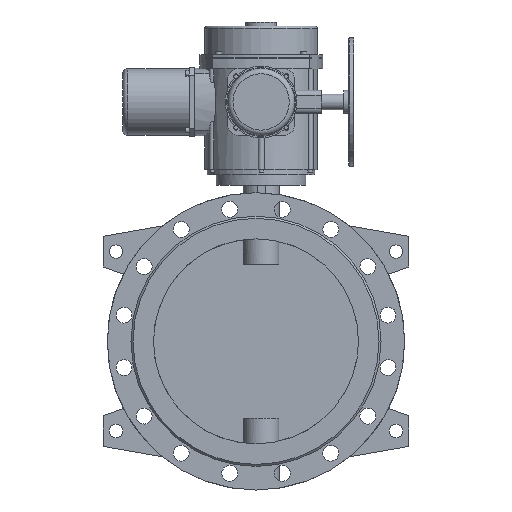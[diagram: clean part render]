
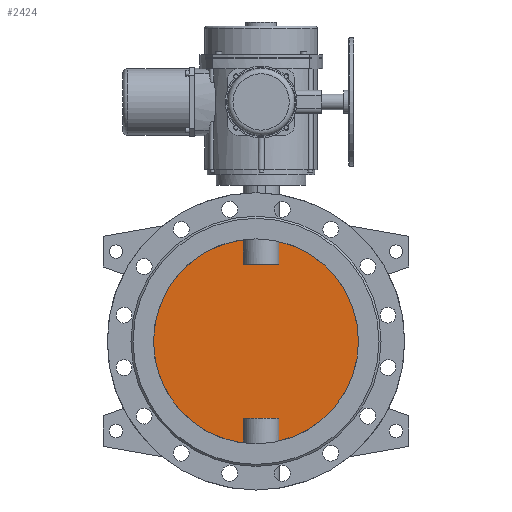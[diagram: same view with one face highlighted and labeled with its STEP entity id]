
A CAD part, front view. The second image highlights one B-rep face of the part: STEP entity #2424.
In plain terms, the highlighted planar face has unit normal (0, -1, 0).
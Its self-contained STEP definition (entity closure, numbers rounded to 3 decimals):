
#2424=ADVANCED_FACE('',(#5829),#5831,.F.);
#5829=FACE_BOUND('',#5830,.T.);
#5830=EDGE_LOOP('',(#8015,#8016,#8017,#8018,#8019,#8020,#8021,#8022));
#5831=PLANE('',#5832);
#5832=AXIS2_PLACEMENT_3D('',#5833,#5834,#5835);
#5833=CARTESIAN_POINT('',(0.,-5.,0.));
#5834=DIRECTION('',(0.,1.,0.));
#5835=DIRECTION('',(1.,0.,0.));
#8015=ORIENTED_EDGE('',*,*,#9122,.T.);
#8016=ORIENTED_EDGE('',*,*,#9145,.T.);
#8017=ORIENTED_EDGE('',*,*,#9146,.T.);
#8018=ORIENTED_EDGE('',*,*,#9147,.T.);
#8019=ORIENTED_EDGE('',*,*,#9124,.T.);
#8020=ORIENTED_EDGE('',*,*,#9148,.T.);
#8021=ORIENTED_EDGE('',*,*,#9149,.T.);
#8022=ORIENTED_EDGE('',*,*,#9150,.T.);
#9122=EDGE_CURVE('',#10428,#10429,#10430,.F.);
#9124=EDGE_CURVE('',#10433,#10431,#10434,.F.);
#9145=EDGE_CURVE('',#10429,#10474,#10475,.T.);
#9146=EDGE_CURVE('',#10474,#10476,#10477,.F.);
#9147=EDGE_CURVE('',#10476,#10433,#10478,.F.);
#9148=EDGE_CURVE('',#10431,#10479,#10480,.F.);
#9149=EDGE_CURVE('',#10479,#10481,#10482,.F.);
#9150=EDGE_CURVE('',#10481,#10428,#10483,.T.);
#10428=VERTEX_POINT('',#15258);
#10429=VERTEX_POINT('',#15259);
#10430=CIRCLE('',#15260,200.);
#10431=VERTEX_POINT('',#15264);
#10433=VERTEX_POINT('',#15327);
#10434=CIRCLE('',#15328,200.);
#10474=VERTEX_POINT('',#15540);
#10475=LINE('',#15541,#15542);
#10476=VERTEX_POINT('',#15544);
#10477=LINE('',#15545,#15546);
#10478=LINE('',#15548,#15549);
#10479=VERTEX_POINT('',#15551);
#10480=LINE('',#15552,#15553);
#10481=VERTEX_POINT('',#15555);
#10482=LINE('',#15556,#15557);
#10483=LINE('',#15559,#15560);
#15258=CARTESIAN_POINT('',(44.641,-5.,-194.954));
#15259=CARTESIAN_POINT('',(44.641,-5.,194.954));
#15260=AXIS2_PLACEMENT_3D('',#15261,#15262,#15263);
#15261=CARTESIAN_POINT('',(0.,-5.,0.));
#15262=DIRECTION('',(0.,1.,0.));
#15263=DIRECTION('',(0.223,0.,0.975));
#15264=CARTESIAN_POINT('',(-24.641,-5.,-198.476));
#15327=CARTESIAN_POINT('',(-24.641,-5.,198.476));
#15328=AXIS2_PLACEMENT_3D('',#15329,#15330,#15331);
#15329=CARTESIAN_POINT('',(0.,-5.,0.));
#15330=DIRECTION('',(0.,1.,0.));
#15331=DIRECTION('',(-0.123,0.,-0.992));
#15540=CARTESIAN_POINT('',(44.641,-5.,150.));
#15541=CARTESIAN_POINT('',(44.641,-5.,194.954));
#15542=VECTOR('',#15543,1.);
#15543=DIRECTION('',(0.,0.,-1.));
#15544=CARTESIAN_POINT('',(-24.641,-5.,150.));
#15545=CARTESIAN_POINT('',(-24.641,-5.,150.));
#15546=VECTOR('',#15547,1.);
#15547=DIRECTION('',(1.,0.,0.));
#15548=CARTESIAN_POINT('',(-24.641,-5.,198.476));
#15549=VECTOR('',#15550,1.);
#15550=DIRECTION('',(0.,0.,-1.));
#15551=CARTESIAN_POINT('',(-24.641,-5.,-150.));
#15552=CARTESIAN_POINT('',(-24.641,-5.,-150.));
#15553=VECTOR('',#15554,1.);
#15554=DIRECTION('',(0.,0.,-1.));
#15555=CARTESIAN_POINT('',(44.641,-5.,-150.));
#15556=CARTESIAN_POINT('',(44.641,-5.,-150.));
#15557=VECTOR('',#15558,1.);
#15558=DIRECTION('',(-1.,0.,0.));
#15559=CARTESIAN_POINT('',(44.641,-5.,-150.));
#15560=VECTOR('',#15561,1.);
#15561=DIRECTION('',(0.,0.,-1.));
